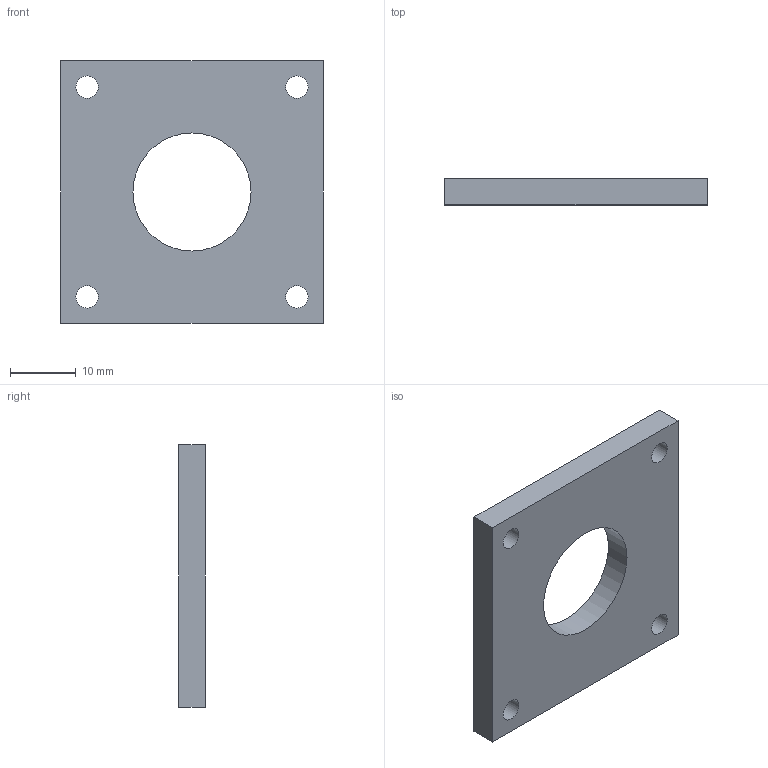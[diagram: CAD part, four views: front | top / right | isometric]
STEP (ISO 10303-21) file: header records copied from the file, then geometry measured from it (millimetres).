
FILE_DESCRIPTION(('Open CASCADE Model'),'2;1');
FILE_NAME('Open CASCADE Shape Model','2026-10-26T17:58:52',('Author'),( 'Open CASCADE'),'Open CASCADE STEP processor 7.9','Open CASCADE 7.9' ,'Unknown');
FILE_SCHEMA(('AUTOMOTIVE_DESIGN { 1 0 10303 214 1 1 1 1 }'));
Length unit declared in the file: millimetre
Products named in the file (1): Open CASCADE STEP translator 7.9 9
Bounding box: 40 x 4 x 40 mm (x, y, z)
Volume: 5236.9 mm3; surface area: 3655.5 mm2
Topology: 1 solids, 1 shells, 11 faces, 27 edges, 18 vertices
Faces by surface type: plane 6, cylinder 5
Full cylindrical faces by diameter (mm): 3.4 x4, 18 x1
Entity records: 712 total; most frequent: DIRECTION 115, CARTESIAN_POINT 111, LINE 61, VECTOR 61, ORIENTED_EDGE 54, PCURVE 54, DEFINITIONAL_REPRESENTATION 54, EDGE_CURVE 27
